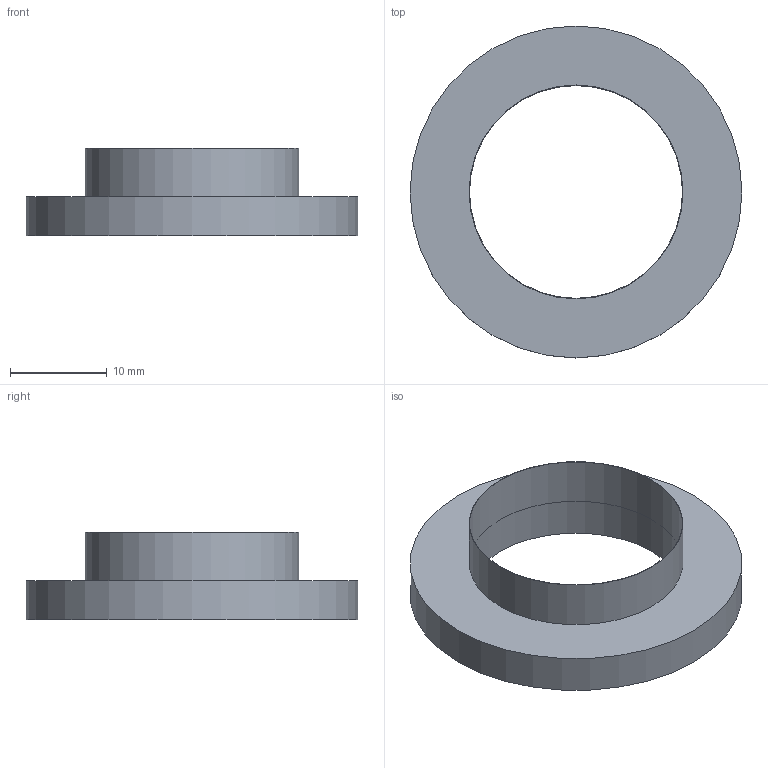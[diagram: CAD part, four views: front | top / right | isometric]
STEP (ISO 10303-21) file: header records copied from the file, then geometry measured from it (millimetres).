
FILE_DESCRIPTION(('Open CASCADE Model'),'2;1');
FILE_NAME('Open CASCADE Shape Model','2026-10-02T14:11:18',('Author'),( 'Open CASCADE'),'Open CASCADE STEP processor 8.0','build123d', 'Unknown');
FILE_SCHEMA(('AUTOMOTIVE_DESIGN { 1 0 10303 214 1 1 1 1 }'));
Length unit declared in the file: millimetre
Products named in the file (1): COMPOUND
Bounding box: 34.3 x 34.3 x 9 mm (x, y, z)
Volume: 2192.8 mm3; surface area: 2488 mm2
Topology: 1 solids, 1 shells, 6 faces, 9 edges, 6 vertices
Faces by surface type: cylinder 3, plane 3
Full cylindrical faces by diameter (mm): 22 x1, 22.1 x1, 34.3 x1
Entity records: 270 total; most frequent: DIRECTION 47, CARTESIAN_POINT 40, ORIENTED_EDGE 18, PCURVE 18, DEFINITIONAL_REPRESENTATION 18, LINE 15, VECTOR 15, AXIS2_PLACEMENT_3D 13
